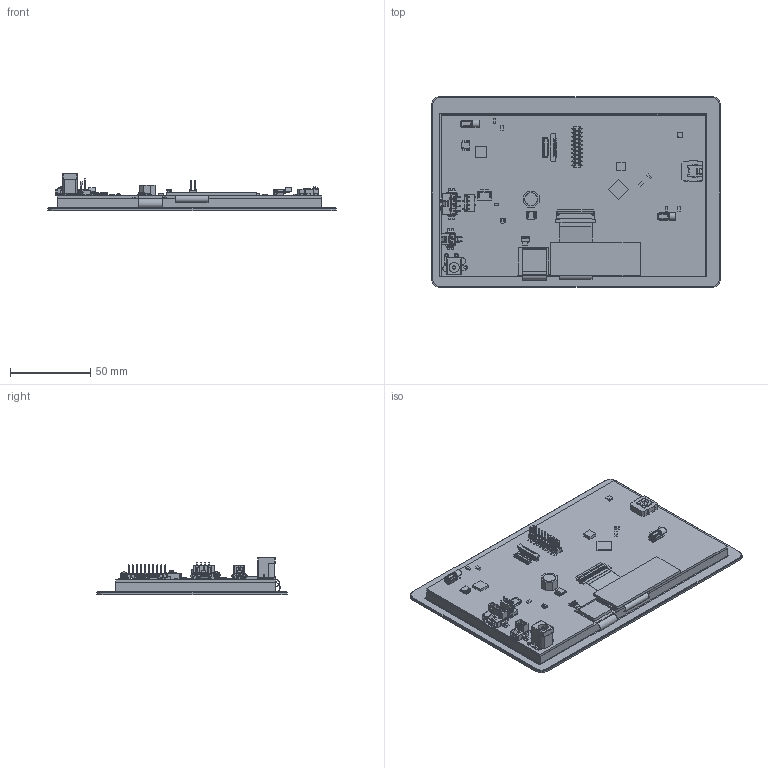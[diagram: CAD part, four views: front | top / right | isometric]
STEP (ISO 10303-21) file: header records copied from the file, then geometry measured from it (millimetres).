
FILE_DESCRIPTION (( 'STEP AP214' ), '1' );
FILE_NAME ('EVE3x70G R1.0.STEP', '2021-05-06T20:27:24', ( '' ), ( '' ), 'SwSTEP 2.0', 'SolidWorks 2018', '' );
FILE_SCHEMA (( 'AUTOMOTIVE_DESIGN' ));
Length unit declared in the file: millimetre
Products named in the file (7): TPN10065 Display Adhesive; TPN10065 Formed Tail; MOP-TFT1024600-70A; EVE3x70G R1.0; EVE3x70x R1.0; TPN10065 User Adhesive
Assembly tree (6 placements, depth 3):
  EVE3x70G R1.0
    EVE3x70x R1.0
    MOP-TFT1024600-70A
    TPN10065 Formed Tail
      TPN10065 Formed Tail
      TPN10065 Display Adhesive
      TPN10065 User Adhesive
Bounding box: 179.96 x 119 x 23.14 mm (x, y, z)
Volume: 131039.4 mm3; surface area: 143485.9 mm2
Topology: 8 solids, 166 shells, 10471 faces, 28563 edges, 18512 vertices
Faces by surface type: plane 7349, cylinder 1785, bspline 1295, sphere 22, cone 16, torus 4
Entity records: 448597 total; most frequent: CARTESIAN_POINT 81552, ORIENTED_EDGE 57082, DIRECTION 46875, EDGE_CURVE 28559, VECTOR 21531, LINE 21531, VERTEX_POINT 18512, AXIS2_PLACEMENT_3D 12672
